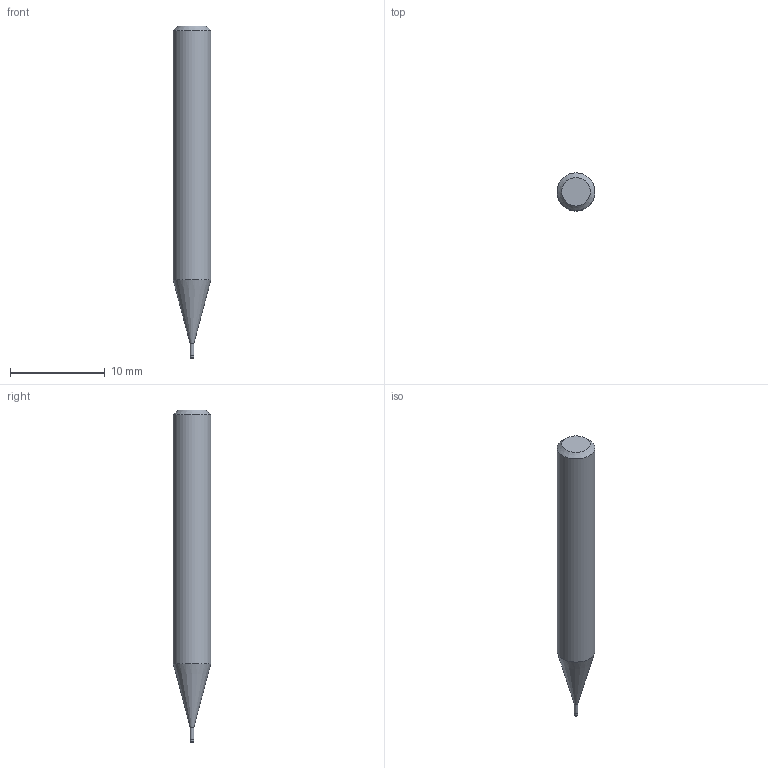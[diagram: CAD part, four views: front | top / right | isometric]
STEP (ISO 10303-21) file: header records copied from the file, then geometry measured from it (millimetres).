
FILE_DESCRIPTION((''),'2;1');
FILE_NAME('C:\Users\nsx150\AppData\Local\Temp\Mastercam 2021\80JYEHYUML\TEMP.step','2022-03-29T14:35:06',(''),(''),'STEP Write','Mastercam 2021 ... CNC Software, Inc.','');
FILE_SCHEMA(('AUTOMOTIVE_DESIGN'));
Length unit declared in the file: millimetre
Products named in the file (1): None
Bounding box: 4 x 4 x 35 mm (x, y, z)
Volume: 365.8 mm3; surface area: 394.7 mm2
Topology: 2 solids, 2 shells, 10 faces, 14 edges, 8 vertices
Faces by surface type: plane 4, cylinder 3, cone 2, torus 1
Full cylindrical faces by diameter (mm): 0.37 x1, 0.4 x1, 4 x1
Entity records: 232 total; most frequent: DIRECTION 40, CARTESIAN_POINT 28, AXIS2_PLACEMENT_3D 20, ORIENTED_EDGE 16, EDGE_LOOP 16, STYLED_ITEM 13, ADVANCED_FACE 10, FACE_BOUND 10
